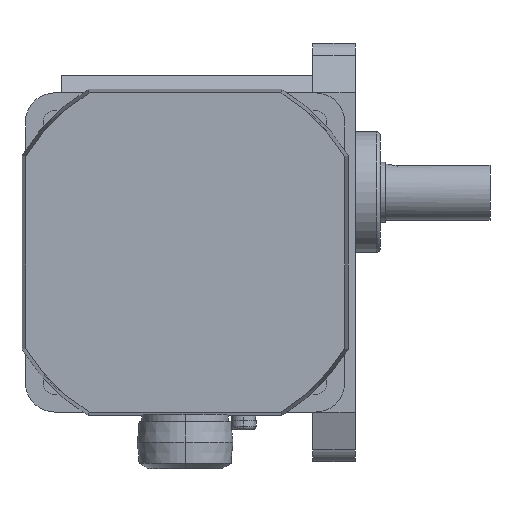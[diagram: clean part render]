
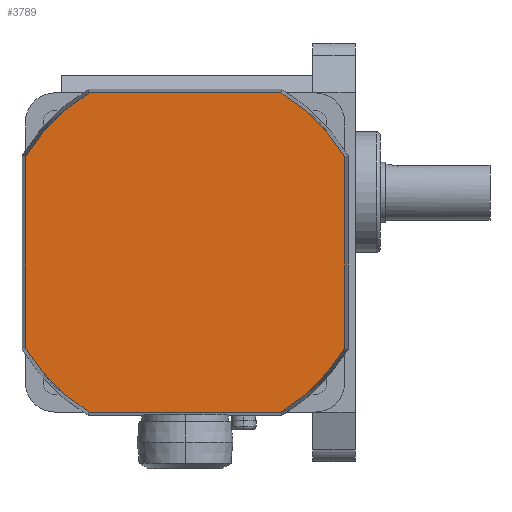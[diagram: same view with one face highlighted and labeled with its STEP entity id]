
A CAD part, left-side view. The second image highlights one B-rep face of the part: STEP entity #3789.
In plain terms, the highlighted planar face has unit normal (-1, 0, 0).
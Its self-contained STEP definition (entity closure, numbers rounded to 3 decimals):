
#3569=CARTESIAN_POINT('POINT146354',(-255.5,93.,
   10.042));
#3570=VERTEX_POINT('VERTEX146354',#3569);
#3577=CARTESIAN_POINT('POINT146355',(-255.5,75.042,
   28.));
#3578=VERTEX_POINT('VERTEX146355',#3577);
#3579=CARTESIAN_POINT('POS241143',(-255.5,48.,-17.));
#3580=DIRECTION('DIR365591',(1.,0.,0.));
#3581=DIRECTION('DIR365592',(0.,0.,-1.))
   ;
#3582=AXIS2_PLACEMENT_3D('AXIS124449',#3579,#3580,#3581);
#3583=CIRCLE('ELLIPSE56896',#3582,52.5);
#3584=EDGE_CURVE('EDGE223490',#3570,#3578,#3583,.T.);
#3610=CARTESIAN_POINT('POINT146357',(-255.5,20.958,
   28.));
#3611=VERTEX_POINT('VERTEX146357',#3610);
#3612=CARTESIAN_POINT('POS241146',(-255.5,48.,
   28.));
#3613=DIRECTION('DIR365597',(0.,1.,0.));
#3614=VECTOR('VEC116695',#3613,1.);
#3615=LINE('STRAIGHT116695',#3612,#3614);
#3616=EDGE_CURVE('EDGE223493',#3611,#3578,#3615,.T.);
#3641=CARTESIAN_POINT('POINT146359',(-255.5,3.,
   10.042));
#3642=VERTEX_POINT('VERTEX146359',#3641);
#3643=EDGE_CURVE('EDGE223496',#3611,#3642,#3583,.T.);
#3658=CARTESIAN_POINT('POINT146361',(-255.5,93.,
   -44.042));
#3659=VERTEX_POINT('VERTEX146361',#3658);
#3668=CARTESIAN_POINT('POS241149',(-255.5,93.,
   -5.875));
#3669=DIRECTION('DIR365601',(0.,0.,-1.));
#3670=VECTOR('VEC116697',#3669,1.);
#3671=LINE('STRAIGHT116697',#3668,#3670);
#3672=EDGE_CURVE('EDGE223500',#3570,#3659,#3671,.T.);
#3690=CARTESIAN_POINT('POINT146363',(-255.5,3.,
   -44.042));
#3691=VERTEX_POINT('VERTEX146363',#3690);
#3692=CARTESIAN_POINT('POS241152',(-255.5,3.,
   -5.875));
#3693=DIRECTION('DIR365605',(0.,0.,1.));
#3694=VECTOR('VEC116699',#3693,1.);
#3695=LINE('STRAIGHT116699',#3692,#3694);
#3696=EDGE_CURVE('EDGE223502',#3691,#3642,#3695,.T.);
#3753=CARTESIAN_POINT('POINT146367',(-255.5,75.042,
   -62.));
#3754=VERTEX_POINT('VERTEX146367',#3753);
#3761=EDGE_CURVE('EDGE223509',#3754,#3659,#3583,.T.);
#3766=ORIENTED_EDGE('COEDGE447009',*,*,#3672,.T.);
#3767=ORIENTED_EDGE('COEDGE447010',*,*,#3761,.F.);
#3768=CARTESIAN_POINT('POINT146368',(-255.5,20.958,
   -62.));
#3769=VERTEX_POINT('VERTEX146368',#3768);
#3770=CARTESIAN_POINT('POS241157',(-255.5,48.,-62.));
#3771=DIRECTION('DIR365612',(0.,-1.,0.));
#3772=VECTOR('VEC116702',#3771,1.);
#3773=LINE('STRAIGHT116702',#3770,#3772);
#3774=EDGE_CURVE('EDGE223510',#3754,#3769,#3773,.T.);
#3775=ORIENTED_EDGE('COEDGE447011',*,*,#3774,.T.);
#3776=EDGE_CURVE('EDGE223511',#3691,#3769,#3583,.T.);
#3777=ORIENTED_EDGE('COEDGE447012',*,*,#3776,.F.);
#3778=ORIENTED_EDGE('COEDGE447013',*,*,#3696,.T.);
#3779=ORIENTED_EDGE('COEDGE447014',*,*,#3643,.F.);
#3780=ORIENTED_EDGE('COEDGE447015',*,*,#3616,.T.);
#3781=ORIENTED_EDGE('COEDGE447016',*,*,#3584,.F.);
#3782=EDGE_LOOP('NONE',(#3766,#3767,#3775,#3777,#3778,#3779,#3780,#3781)
   );
#3783=FACE_BOUND('LOOP1',#3782,.T.);
#3784=CARTESIAN_POINT('POS241158',(-255.5,48.,
   5.25));
#3785=DIRECTION('DIR365613',(-1.,0.,0.));
#3786=DIRECTION('DIR365614',(0.,1.,0.));
#3787=AXIS2_PLACEMENT_3D('AXIS124456',#3784,#3785,#3786);
#3788=PLANE('PLANE40088',#3787);
#3789=ADVANCED_FACE('FACE91909',(#3783),#3788,.T.);
